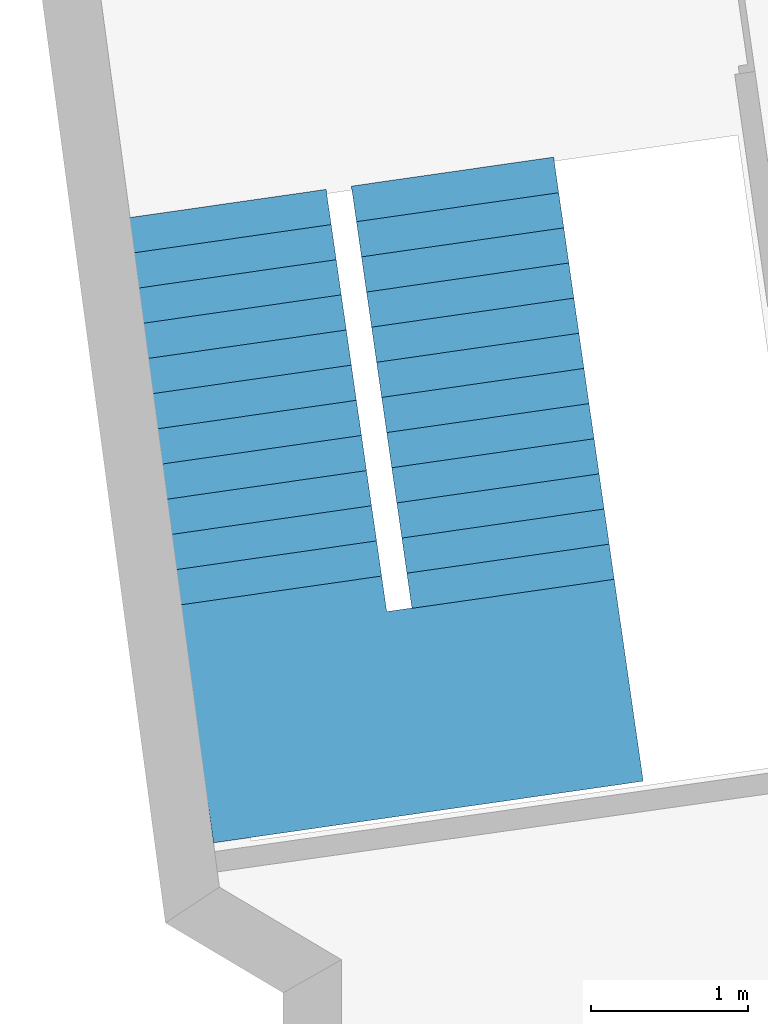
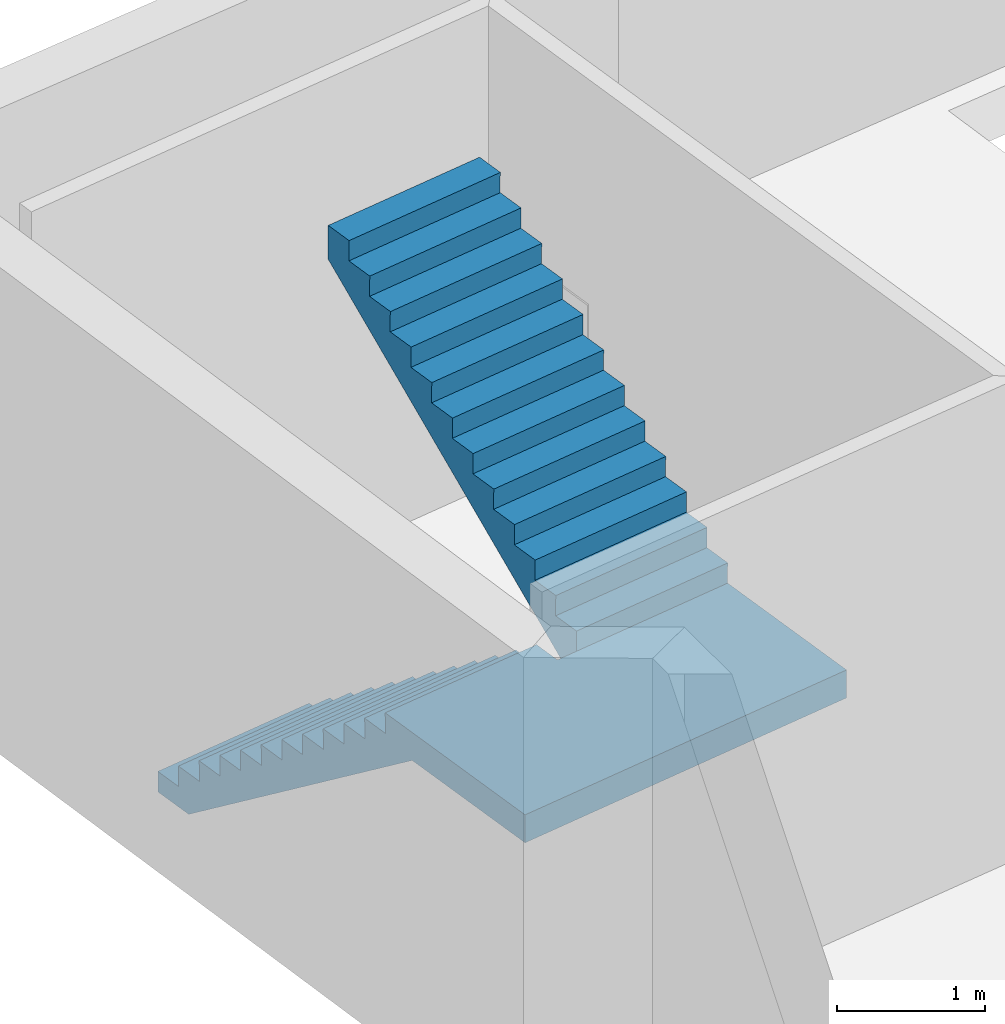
# One storey, part 24 of 27: 1 stair.
"""IFC2X3 building model written with IfcOpenShell, lengths in metres."""

import ifcopenshell
import ifcopenshell.guid

model = None  # the IFC model being written
_history = None  # IfcOwnerHistory: only IFC2X3 demands one
_inside = {}  # id of a spatial element -> (the spatial element, [elements in it])
_under = {}  # id of a project, library or spatial element -> (it, [spatial elements below it])
_declared = {}  # id of a project -> (the project, [libraries it declares])
_typed = {}  # id of a type object -> (the type object, [elements of that type])
_made_of = {}  # id of a material, layer set ... -> (it, [elements and type objects made of it])


def new_model(schema):
    """Start an empty IFC model of exactly this schema.

    Asked for "IFC4X3", IfcOpenShell would pick the latest addendum, in which some entities
    have other attributes; the version numbers below select the first issue.
    IFC2X3 requires an IfcOwnerHistory on every rooted entity: one is made here for all.
    """
    global model, _history
    if schema == "IFC4X3":
        model = ifcopenshell.file(schema_version=(4, 3, 0, 0))
    else:
        model = ifcopenshell.file(schema=schema)
    _inside.clear()
    _under.clear()
    _declared.clear()
    _typed.clear()
    _made_of.clear()
    _history = None
    if model.schema == "IFC2X3":
        org = make("IfcOrganization", Name="unknown")
        user = make(
            "IfcPersonAndOrganization",
            ThePerson=make("IfcPerson", FamilyName="unknown"),
            TheOrganization=org,
        )
        app = make(
            "IfcApplication",
            ApplicationDeveloper=org,
            Version="unknown",
            ApplicationFullName="unknown",
            ApplicationIdentifier="unknown",
        )
        _history = make(
            "IfcOwnerHistory",
            OwningUser=user,
            OwningApplication=app,
            ChangeAction="ADDED",
            CreationDate=0,
        )
    return model


def make(cls, **values):
    """One entity of the class cls with the attributes given. An attribute that is None is left unset."""
    return model.create_entity(
        cls, **{name: value for name, value in values.items() if value is not None}
    )


def entity(cls, *values):
    """Any entity or typed value of the class cls, its attributes in the order of the schema. None: left unset."""
    e = model.create_entity(cls)
    for i, value in enumerate(values):
        if value is not None:
            e[i] = value
    return e


def rooted(cls, **values):
    """An entity with a GlobalId (a new one), such as an element, a storey or a relation."""
    return make(cls, GlobalId=ifcopenshell.guid.new(), OwnerHistory=_history, **values)


def si_unit(unit_type, name, prefix=None):
    """IfcSIUnit, for example si_unit("LENGTHUNIT", "METRE", prefix="MILLI")."""
    return make("IfcSIUnit", UnitType=unit_type, Prefix=prefix, Name=name)


def converted_unit(unit_type, name, factor, base, dimensions=None, offset=None):
    """IfcConversionBasedUnit, such as the inch: factor (a typed value) times the base unit."""
    return make(
        "IfcConversionBasedUnit"
        if offset is None
        else "IfcConversionBasedUnitWithOffset",
        ConversionOffset=offset,
        Dimensions=None
        if dimensions is None
        else entity("IfcDimensionalExponents", *dimensions),
        UnitType=unit_type,
        Name=name,
        ConversionFactor=make(
            "IfcMeasureWithUnit", ValueComponent=factor, UnitComponent=base
        ),
    )


def money_unit(currency):
    """IfcMonetaryUnit."""
    return make("IfcMonetaryUnit", Currency=currency)


def assignment(units):
    """IfcUnitAssignment: the units of a project."""
    return None if units is None else make("IfcUnitAssignment", Units=units)


def point(xyz):
    """IfcCartesianPoint."""
    return None if xyz is None else make("IfcCartesianPoint", Coordinates=xyz)


def direction(xyz):
    """IfcDirection."""
    return None if xyz is None else make("IfcDirection", DirectionRatios=xyz)


def frame(location, z_axis=None, x_axis=None):
    """IfcAxis2Placement3D, a coordinate frame: its origin and axes. An axis left out is left unset."""
    return make(
        "IfcAxis2Placement3D",
        Location=point(location),
        Axis=direction(z_axis),
        RefDirection=direction(x_axis),
    )


def origin_with_axes():
    """The frame at (0, 0, 0) with the z axis (0, 0, 1) and the x axis (1, 0, 0) written out."""
    return frame((0.0, 0.0, 0.0), z_axis=(0.0, 0.0, 1.0), x_axis=(1.0, 0.0, 0.0))


def place(relative_to, where):
    """IfcLocalPlacement: puts the frame where relative to a parent placement (None: the world)."""
    return make(
        "IfcLocalPlacement", PlacementRelTo=relative_to, RelativePlacement=where
    )


def context(
    kind, dimensions, precision=None, world=None, true_north=None, identifier=None
):
    """IfcGeometricRepresentationContext, for example the 3D "Model" context."""
    return make(
        "IfcGeometricRepresentationContext",
        ContextIdentifier=identifier,
        ContextType=kind,
        CoordinateSpaceDimension=dimensions,
        Precision=precision,
        WorldCoordinateSystem=world,
        TrueNorth=true_north,
    )


def subcontext(parent, identifier, kind, view, scale=None):
    """IfcGeometricRepresentationSubContext, for example "Body" below "Model"."""
    return make(
        "IfcGeometricRepresentationSubContext",
        ContextIdentifier=identifier,
        ContextType=kind,
        ParentContext=parent,
        TargetScale=scale,
        TargetView=view,
    )


def project(units=None, contexts=None):
    """IfcProject with its units and contexts."""
    return rooted(
        "IfcProject",
        Name="project",
        RepresentationContexts=contexts,
        UnitsInContext=assignment(units),
    )


def spatial(cls, under=None, at=None, **own):
    """A site, building, storey or space (cls), placed at a placement, below another one or the project."""
    s = rooted(cls, ObjectPlacement=at, **own)
    if under is not None:
        _under.setdefault(under.id(), (under, []))[1].append(s)
    return s


def faces_of(points, faces, orient=None, outer=None):
    """IfcFace entities. A face is a list of loops; a loop is a list of indices into points, from 0.

    orient and outer hold one flag for each loop. By default every Orientation is true, the
    first loop of a face is its IfcFaceOuterBound and the others are IfcFaceBound.
    """
    made = []
    for i, loops in enumerate(faces):
        bounds = []
        for j, loop in enumerate(loops):
            is_outer = j == 0 if outer is None else outer[i][j]
            bounds.append(
                make(
                    "IfcFaceOuterBound" if is_outer else "IfcFaceBound",
                    Bound=make("IfcPolyLoop", Polygon=[points[k] for k in loop]),
                    Orientation=True if orient is None else orient[i][j],
                )
            )
        made.append(make("IfcFace", Bounds=bounds))
    return made


def faceted_brep(points, faces, orient=None, outer=None, voids=None):
    """IfcFacetedBrep: a solid bounded by flat faces; with voids (closed shells), ...WithVoids."""
    shared = [point(p) for p in points]
    hull = make("IfcClosedShell", CfsFaces=faces_of(shared, faces, orient, outer))
    if voids is None:
        return make("IfcFacetedBrep", Outer=hull)
    return make(
        "IfcFacetedBrepWithVoids",
        Outer=hull,
        Voids=[
            make(cls, CfsFaces=faces_of(shared, fs, o, b)) for cls, fs, o, b in voids
        ],
    )


def shape(context_of_items, identifier, shape_type, items):
    """IfcShapeRepresentation: the items that make up one representation, for example the "Body"."""
    return make(
        "IfcShapeRepresentation",
        ContextOfItems=context_of_items,
        RepresentationIdentifier=identifier,
        RepresentationType=shape_type,
        Items=items,
    )


def material(Name=None, Category=None):
    """IfcMaterial."""
    return make("IfcMaterial", Name=Name, Category=Category)


def made_of(thing, what):
    """Note that an element or type object is made of a material, layer set ...; save() writes the relation."""
    if what is not None:
        _made_of.setdefault(what.id(), (what, []))[1].append(thing)
    return thing


def element(
    cls,
    number,
    at=None,
    inside=None,
    cuts=None,
    type_object=None,
    material=None,
    context=None,
    identifier="Body",
    shape_type=None,
    held_by="IfcProductDefinitionShape",
    body=None,
    shapes=None,
    **own,
):
    """One element of the class cls, such as IfcWall. Its Tag is "e" and its number.

    at: its placement. inside: the storey or other place that contains it. cuts: it is an
    opening in that element (IfcRelVoidsElement). A single representation is given by context,
    identifier, shape_type and body (its items); several are given by shapes. held_by: the class
    of the entity that holds the representations. save() writes the other relations.
    """
    e = rooted(cls, Tag="e%d" % number, ObjectPlacement=at, **own)
    if body is not None:
        shapes = [shape(context, identifier, shape_type, body)]
    if shapes is not None:
        e.Representation = make(held_by, Representations=shapes)
    if inside is not None:
        _inside.setdefault(inside.id(), (inside, []))[1].append(e)
    if cuts is not None:
        rooted(
            "IfcRelVoidsElement", RelatingBuildingElement=cuts, RelatedOpeningElement=e
        )
    if type_object is not None:
        _typed.setdefault(type_object.id(), (type_object, []))[1].append(e)
    return made_of(e, material)


def aggregate(whole, parts):
    """IfcRelAggregates: a whole, such as a stair, and the parts it consists of."""
    return rooted("IfcRelAggregates", RelatingObject=whole, RelatedObjects=parts)


def save(model, path):
    """Write the relations noted so far, then the file.

    IfcRelAggregates (storeys below a building ...), IfcRelContainedInSpatialStructure (elements
    in a storey), IfcRelDefinesByType, IfcRelAssociatesMaterial and IfcRelDeclares: one each for
    every whole, place, type object, material and project.
    """
    for whole, parts in _under.values():
        aggregate(whole, parts)
    for where, things in _inside.values():
        rooted(
            "IfcRelContainedInSpatialStructure",
            RelatedElements=things,
            RelatingStructure=where,
        )
    for kind, things in _typed.values():
        rooted("IfcRelDefinesByType", RelatedObjects=things, RelatingType=kind)
    for what, things in _made_of.values():
        rooted("IfcRelAssociatesMaterial", RelatedObjects=things, RelatingMaterial=what)
    for by, libraries in _declared.values():
        rooted("IfcRelDeclares", RelatingContext=by, RelatedDefinitions=libraries)
    model.write(path)


model = new_model("IFC2X3")

# Units and contexts
model_context = context("Model", 3, precision=1e-05, world=origin_with_axes(), true_north=direction((0.0, 1.0)))
body_context = subcontext(model_context, "Body", "Model", "MODEL_VIEW")
ifc_project = project(units=[si_unit("LENGTHUNIT", "METRE"), si_unit("AREAUNIT", "SQUARE_METRE"), si_unit("VOLUMEUNIT", "CUBIC_METRE"), converted_unit("PLANEANGLEUNIT", "DEGREE", entity("IfcPlaneAngleMeasure", 0.0174532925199), si_unit("PLANEANGLEUNIT", "RADIAN"), dimensions=[0, 0, 0, 0, 0, 0, 0]), si_unit("SOLIDANGLEUNIT", "STERADIAN"), money_unit("EUR"), converted_unit("TIMEUNIT", "Year", entity("IfcTimeMeasure", 31556926.0), si_unit("TIMEUNIT", "SECOND"), dimensions=[0, 0, 0, 0, 0, 0, 0]), si_unit("MASSUNIT", "GRAM"), si_unit("THERMODYNAMICTEMPERATUREUNIT", "DEGREE_CELSIUS"), si_unit("LUMINOUSINTENSITYUNIT", "LUMEN")], contexts=[model_context])

# Site, building, storey
site_placement = place(None, origin_with_axes())
site = spatial("IfcSite", under=ifc_project, at=site_placement, Name="Undefined", CompositionType="ELEMENT")
building_placement = place(site_placement, origin_with_axes())
building = spatial("IfcBuilding", under=site, at=building_placement, Name="Undefined", CompositionType="ELEMENT")
storey_placement = place(building_placement, frame((0.0, 0.0, 5.4), z_axis=(0.0, 0.0, 1.0), x_axis=(1.0, 0.0, 0.0)))
storey = spatial("IfcBuildingStorey", under=building, at=storey_placement, Name="R+1", CompositionType="ELEMENT", Elevation=5.4)

# Stair
ifc_material = material(Name="Concrete Block")
stair_placement = place(storey_placement, frame((-1.38089637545, 23.3565313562, 0.0), z_axis=(0.0, 0.0, 1.0), x_axis=(0.142095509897, -0.989852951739, 0.0)))
element("IfcStair", 1, at=stair_placement, inside=storey, material=ifc_material, Name="Stair_01", ObjectType="STAIR", ShapeType="NOTDEFINED", context=body_context, shape_type="Brep", body=[
    faceted_brep([(0.334833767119, 0.0, 0.0), (0.334833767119, 1.29732646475, 0.0), (2.77183291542, 1.29732646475, 1.785), (2.77183291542, 0.0, 1.785), (0.02, 0.0, 0.0), (0.02, 1.29732646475, 0.0), (0.02, 1.29732646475, 0.137916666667), (0.245461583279, 1.29732646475, 0.137916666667), (0.245461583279, 1.29732646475, 0.305833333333), (0.470923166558, 1.29732646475, 0.305833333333), (0.470923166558, 1.29732646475, 0.47375), (0.696384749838, 1.29732646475, 0.47375), (0.696384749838, 1.29732646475, 0.641666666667), (0.921846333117, 1.29732646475, 0.641666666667), (0.921846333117, 1.29732646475, 0.809583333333), (1.1473079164, 1.29732646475, 0.809583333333), (1.1473079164, 1.29732646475, 0.9775), (1.37276949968, 1.29732646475, 0.9775), (1.37276949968, 1.29732646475, 1.14541666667), (1.59823108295, 1.29732646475, 1.14541666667), (1.59823108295, 1.29732646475, 1.31333333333), (1.82369266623, 1.29732646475, 1.31333333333), (1.82369266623, 1.29732646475, 1.48125), (2.04915424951, 1.29732646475, 1.48125), (2.04915424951, 1.29732646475, 1.64916666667), (2.27461583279, 1.29732646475, 1.64916666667), (2.27461583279, 1.29732646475, 1.81708333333), (2.50007741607, 1.29732646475, 1.81708333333), (2.50007741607, 1.29732646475, 1.985), (2.72553899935, 1.29732646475, 1.985), (4.0028654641, 1.29732646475, 1.985), (4.0028654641, 1.29732646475, 1.785), (4.0028654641, 0.0, 1.785), (4.0028654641, 0.0, 1.985), (2.72553899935, 0.0, 1.985), (2.50007741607, 0.0, 1.985), (2.50007741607, 0.0, 1.81708333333), (2.27461583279, 0.0, 1.81708333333), (2.27461583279, 0.0, 1.64916666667), (2.04915424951, 0.0, 1.64916666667), (2.04915424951, 0.0, 1.48125), (1.82369266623, 0.0, 1.48125), (1.82369266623, 0.0, 1.31333333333), (1.59823108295, 0.0, 1.31333333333), (1.59823108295, 0.0, 1.14541666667), (1.37276949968, 0.0, 1.14541666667), (1.37276949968, 0.0, 0.9775), (1.1473079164, 0.0, 0.9775), (1.1473079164, 0.0, 0.809583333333), (0.921846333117, 0.0, 0.809583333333), (0.921846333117, 0.0, 0.641666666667), (0.696384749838, 0.0, 0.641666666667), (0.696384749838, 0.0, 0.47375), (0.470923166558, 0.0, 0.47375), (0.470923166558, 0.0, 0.305833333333), (0.245461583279, 0.0, 0.305833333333), (0.245461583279, 0.0, 0.137916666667), (0.02, 0.0, 0.137916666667)], [[[0, 1, 2, 3]], [[4, 5, 1, 0]], [[1, 5, 6, 7, 8, 9, 10, 11, 12, 13, 14, 15, 16, 17, 18, 19, 20, 21, 22, 23, 24, 25, 26, 27, 28, 29, 30, 31, 2]], [[3, 2, 31, 32]], [[0, 3, 32, 33, 34, 35, 36, 37, 38, 39, 40, 41, 42, 43, 44, 45, 46, 47, 48, 49, 50, 51, 52, 53, 54, 55, 56, 57, 4]], [[57, 6, 5, 4]], [[56, 7, 6, 57]], [[55, 8, 7, 56]], [[54, 9, 8, 55]], [[53, 10, 9, 54]], [[52, 11, 10, 53]], [[51, 12, 11, 52]], [[50, 13, 12, 51]], [[49, 14, 13, 50]], [[48, 15, 14, 49]], [[47, 16, 15, 48]], [[46, 17, 16, 47]], [[45, 18, 17, 46]], [[44, 19, 18, 45]], [[43, 20, 19, 44]], [[42, 21, 20, 43]], [[41, 22, 21, 42]], [[40, 23, 22, 41]], [[39, 24, 23, 40]], [[38, 25, 24, 39]], [[37, 26, 25, 38]], [[36, 27, 26, 37]], [[35, 28, 27, 36]], [[34, 29, 28, 35]], [[33, 30, 29, 34]], [[32, 31, 30, 33]]]),
    faceted_brep([(2.70553899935, 1.29732646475, 1.985), (2.70553899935, 1.45900763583, 1.985), (2.70553899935, 1.45900763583, 1.785), (2.70553899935, 1.29732646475, 1.785), (4.0028654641, 1.29732646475, 1.985), (4.0028654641, 1.45900763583, 1.985), (4.0028654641, 1.45900763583, 1.785), (2.77183291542, 1.45900763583, 1.785), (2.77183291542, 1.29732646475, 1.785), (4.0028654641, 1.29732646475, 1.785)], [[[0, 1, 2, 3]], [[4, 5, 1, 0]], [[1, 5, 6, 7, 2]], [[3, 2, 7, 8]], [[0, 3, 8, 9, 4]], [[9, 6, 5, 4]], [[8, 7, 6, 9]]]),
    faceted_brep([(2.70553899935, 1.45900763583, 1.985), (2.70553899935, 2.75633410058, 1.985), (2.70553899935, 2.75633410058, 1.785), (2.70553899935, 1.45900763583, 1.785), (4.0028654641, 1.45900763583, 1.985), (4.0028654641, 2.75633410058, 1.985), (4.0028654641, 2.75633410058, 1.785), (4.0028654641, 1.45900763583, 1.785)], [[[0, 1, 2, 3]], [[4, 5, 1, 0]], [[1, 5, 6, 2]], [[3, 2, 6, 7]], [[0, 3, 7, 4]], [[7, 6, 5, 4]]]),
    faceted_brep([(2.70553899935, 1.45900763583, 1.785), (2.63924508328, 1.45900763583, 1.785), (2.63924508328, 2.75633410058, 1.785), (2.70553899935, 2.75633410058, 1.785), (2.70553899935, 1.45900763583, 1.985), (2.68553899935, 1.45900763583, 1.985), (2.68553899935, 1.45900763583, 2.15291666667), (2.46007741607, 1.45900763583, 2.15291666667), (2.46007741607, 1.45900763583, 2.32083333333), (2.23461583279, 1.45900763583, 2.32083333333), (2.23461583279, 1.45900763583, 2.48875), (2.00915424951, 1.45900763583, 2.48875), (2.00915424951, 1.45900763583, 2.65666666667), (1.78369266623, 1.45900763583, 2.65666666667), (1.78369266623, 1.45900763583, 2.82458333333), (1.55823108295, 1.45900763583, 2.82458333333), (1.55823108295, 1.45900763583, 2.9925), (1.33276949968, 1.45900763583, 2.9925), (1.33276949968, 1.45900763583, 3.16041666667), (1.1073079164, 1.45900763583, 3.16041666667), (1.1073079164, 1.45900763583, 3.32833333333), (0.881846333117, 1.45900763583, 3.32833333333), (0.881846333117, 1.45900763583, 3.49625), (0.656384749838, 1.45900763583, 3.49625), (0.656384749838, 1.45900763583, 3.66416666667), (0.430923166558, 1.45900763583, 3.66416666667), (0.430923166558, 1.45900763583, 3.83208333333), (0.205461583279, 1.45900763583, 3.83208333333), (0.205461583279, 1.45900763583, 4.0), (0.0, 1.45900763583, 4.0), (0.0, 1.45900763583, 3.75062638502), (0.0, 2.75633410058, 3.75062638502), (0.0, 2.75633410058, 4.0), (0.205461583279, 2.75633410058, 4.0), (0.205461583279, 2.75633410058, 3.83208333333), (0.430923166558, 2.75633410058, 3.83208333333), (0.430923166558, 2.75633410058, 3.66416666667), (0.656384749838, 2.75633410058, 3.66416666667), (0.656384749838, 2.75633410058, 3.49625), (0.881846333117, 2.75633410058, 3.49625), (0.881846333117, 2.75633410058, 3.32833333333), (1.1073079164, 2.75633410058, 3.32833333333), (1.1073079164, 2.75633410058, 3.16041666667), (1.33276949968, 2.75633410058, 3.16041666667), (1.33276949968, 2.75633410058, 2.9925), (1.55823108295, 2.75633410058, 2.9925), (1.55823108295, 2.75633410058, 2.82458333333), (1.78369266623, 2.75633410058, 2.82458333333), (1.78369266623, 2.75633410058, 2.65666666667), (2.00915424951, 2.75633410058, 2.65666666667), (2.00915424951, 2.75633410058, 2.48875), (2.23461583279, 2.75633410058, 2.48875), (2.23461583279, 2.75633410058, 2.32083333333), (2.46007741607, 2.75633410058, 2.32083333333), (2.46007741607, 2.75633410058, 2.15291666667), (2.68553899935, 2.75633410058, 2.15291666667), (2.68553899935, 2.75633410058, 1.985), (2.70553899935, 2.75633410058, 1.985)], [[[0, 1, 2, 3]], [[0, 4, 5, 6, 7, 8, 9, 10, 11, 12, 13, 14, 15, 16, 17, 18, 19, 20, 21, 22, 23, 24, 25, 26, 27, 28, 29, 30, 1]], [[1, 30, 31, 2]], [[3, 2, 31, 32, 33, 34, 35, 36, 37, 38, 39, 40, 41, 42, 43, 44, 45, 46, 47, 48, 49, 50, 51, 52, 53, 54, 55, 56, 57]], [[4, 0, 3, 57]], [[5, 4, 57, 56]], [[6, 5, 56, 55]], [[7, 6, 55, 54]], [[8, 7, 54, 53]], [[9, 8, 53, 52]], [[10, 9, 52, 51]], [[11, 10, 51, 50]], [[12, 11, 50, 49]], [[13, 12, 49, 48]], [[14, 13, 48, 47]], [[15, 14, 47, 46]], [[16, 15, 46, 45]], [[17, 16, 45, 44]], [[18, 17, 44, 43]], [[19, 18, 43, 42]], [[20, 19, 42, 41]], [[21, 20, 41, 40]], [[22, 21, 40, 39]], [[23, 22, 39, 38]], [[24, 23, 38, 37]], [[25, 24, 37, 36]], [[26, 25, 36, 35]], [[27, 26, 35, 34]], [[28, 27, 34, 33]], [[29, 28, 33, 32]], [[30, 29, 32, 31]]]),
    faceted_brep([(0.0, 0.0, 0.0), (0.0, 1.29732646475, 0.0), (0.02, 1.29732646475, 0.0), (0.02, 0.0, 0.0), (0.0, 0.0, 0.137916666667), (0.0, 1.29732646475, 0.137916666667), (0.02, 1.29732646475, 0.137916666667), (0.02, 0.0, 0.137916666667)], [[[0, 1, 2, 3]], [[4, 5, 1, 0]], [[1, 5, 6, 2]], [[3, 2, 6, 7]], [[0, 3, 7, 4]], [[7, 6, 5, 4]]]),
    faceted_brep([(0.225461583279, 0.0, 0.167916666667), (0.225461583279, 1.29732646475, 0.167916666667), (0.245461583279, 1.29732646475, 0.167916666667), (0.245461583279, 0.0, 0.167916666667), (0.225461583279, 0.0, 0.305833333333), (0.225461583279, 1.29732646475, 0.305833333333), (0.245461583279, 1.29732646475, 0.305833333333), (0.245461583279, 0.0, 0.305833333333)], [[[0, 1, 2, 3]], [[4, 5, 1, 0]], [[1, 5, 6, 2]], [[3, 2, 6, 7]], [[0, 3, 7, 4]], [[7, 6, 5, 4]]]),
    faceted_brep([(0.450923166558, 0.0, 0.335833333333), (0.450923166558, 1.29732646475, 0.335833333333), (0.470923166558, 1.29732646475, 0.335833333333), (0.470923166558, 0.0, 0.335833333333), (0.450923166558, 0.0, 0.47375), (0.450923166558, 1.29732646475, 0.47375), (0.470923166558, 1.29732646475, 0.47375), (0.470923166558, 0.0, 0.47375)], [[[0, 1, 2, 3]], [[4, 5, 1, 0]], [[1, 5, 6, 2]], [[3, 2, 6, 7]], [[0, 3, 7, 4]], [[7, 6, 5, 4]]]),
    faceted_brep([(0.676384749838, 0.0, 0.50375), (0.676384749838, 1.29732646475, 0.50375), (0.696384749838, 1.29732646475, 0.50375), (0.696384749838, 0.0, 0.50375), (0.676384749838, 0.0, 0.641666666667), (0.676384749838, 1.29732646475, 0.641666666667), (0.696384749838, 1.29732646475, 0.641666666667), (0.696384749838, 0.0, 0.641666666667)], [[[0, 1, 2, 3]], [[4, 5, 1, 0]], [[1, 5, 6, 2]], [[3, 2, 6, 7]], [[0, 3, 7, 4]], [[7, 6, 5, 4]]]),
    faceted_brep([(0.901846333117, 0.0, 0.671666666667), (0.901846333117, 1.29732646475, 0.671666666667), (0.921846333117, 1.29732646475, 0.671666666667), (0.921846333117, 0.0, 0.671666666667), (0.901846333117, 0.0, 0.809583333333), (0.901846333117, 1.29732646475, 0.809583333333), (0.921846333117, 1.29732646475, 0.809583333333), (0.921846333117, 0.0, 0.809583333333)], [[[0, 1, 2, 3]], [[4, 5, 1, 0]], [[1, 5, 6, 2]], [[3, 2, 6, 7]], [[0, 3, 7, 4]], [[7, 6, 5, 4]]]),
    faceted_brep([(1.1273079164, 0.0, 0.839583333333), (1.1273079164, 1.29732646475, 0.839583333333), (1.1473079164, 1.29732646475, 0.839583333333), (1.1473079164, 0.0, 0.839583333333), (1.1273079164, 0.0, 0.9775), (1.1273079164, 1.29732646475, 0.9775), (1.1473079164, 1.29732646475, 0.9775), (1.1473079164, 0.0, 0.9775)], [[[0, 1, 2, 3]], [[4, 5, 1, 0]], [[1, 5, 6, 2]], [[3, 2, 6, 7]], [[0, 3, 7, 4]], [[7, 6, 5, 4]]]),
    faceted_brep([(1.35276949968, 0.0, 1.0075), (1.35276949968, 1.29732646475, 1.0075), (1.37276949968, 1.29732646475, 1.0075), (1.37276949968, 0.0, 1.0075), (1.35276949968, 0.0, 1.14541666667), (1.35276949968, 1.29732646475, 1.14541666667), (1.37276949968, 1.29732646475, 1.14541666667), (1.37276949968, 0.0, 1.14541666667)], [[[0, 1, 2, 3]], [[4, 5, 1, 0]], [[1, 5, 6, 2]], [[3, 2, 6, 7]], [[0, 3, 7, 4]], [[7, 6, 5, 4]]]),
    faceted_brep([(1.57823108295, 0.0, 1.17541666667), (1.57823108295, 1.29732646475, 1.17541666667), (1.59823108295, 1.29732646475, 1.17541666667), (1.59823108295, 0.0, 1.17541666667), (1.57823108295, 0.0, 1.31333333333), (1.57823108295, 1.29732646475, 1.31333333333), (1.59823108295, 1.29732646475, 1.31333333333), (1.59823108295, 0.0, 1.31333333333)], [[[0, 1, 2, 3]], [[4, 5, 1, 0]], [[1, 5, 6, 2]], [[3, 2, 6, 7]], [[0, 3, 7, 4]], [[7, 6, 5, 4]]]),
    faceted_brep([(1.80369266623, 0.0, 1.34333333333), (1.80369266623, 1.29732646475, 1.34333333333), (1.82369266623, 1.29732646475, 1.34333333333), (1.82369266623, 0.0, 1.34333333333), (1.80369266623, 0.0, 1.48125), (1.80369266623, 1.29732646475, 1.48125), (1.82369266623, 1.29732646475, 1.48125), (1.82369266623, 0.0, 1.48125)], [[[0, 1, 2, 3]], [[4, 5, 1, 0]], [[1, 5, 6, 2]], [[3, 2, 6, 7]], [[0, 3, 7, 4]], [[7, 6, 5, 4]]]),
    faceted_brep([(2.02915424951, 0.0, 1.51125), (2.02915424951, 1.29732646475, 1.51125), (2.04915424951, 1.29732646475, 1.51125), (2.04915424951, 0.0, 1.51125), (2.02915424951, 0.0, 1.64916666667), (2.02915424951, 1.29732646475, 1.64916666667), (2.04915424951, 1.29732646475, 1.64916666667), (2.04915424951, 0.0, 1.64916666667)], [[[0, 1, 2, 3]], [[4, 5, 1, 0]], [[1, 5, 6, 2]], [[3, 2, 6, 7]], [[0, 3, 7, 4]], [[7, 6, 5, 4]]]),
    faceted_brep([(2.25461583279, 0.0, 1.67916666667), (2.25461583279, 1.29732646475, 1.67916666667), (2.27461583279, 1.29732646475, 1.67916666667), (2.27461583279, 0.0, 1.67916666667), (2.25461583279, 0.0, 1.81708333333), (2.25461583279, 1.29732646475, 1.81708333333), (2.27461583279, 1.29732646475, 1.81708333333), (2.27461583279, 0.0, 1.81708333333)], [[[0, 1, 2, 3]], [[4, 5, 1, 0]], [[1, 5, 6, 2]], [[3, 2, 6, 7]], [[0, 3, 7, 4]], [[7, 6, 5, 4]]]),
    faceted_brep([(2.48007741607, 0.0, 1.84708333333), (2.48007741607, 1.29732646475, 1.84708333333), (2.50007741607, 1.29732646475, 1.84708333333), (2.50007741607, 0.0, 1.84708333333), (2.48007741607, 0.0, 1.985), (2.48007741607, 1.29732646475, 1.985), (2.50007741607, 1.29732646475, 1.985), (2.50007741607, 0.0, 1.985)], [[[0, 1, 2, 3]], [[4, 5, 1, 0]], [[1, 5, 6, 2]], [[3, 2, 6, 7]], [[0, 3, 7, 4]], [[7, 6, 5, 4]]]),
    faceted_brep([(2.70553899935, 1.45900763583, 2.015), (2.68553899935, 1.45900763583, 2.015), (2.68553899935, 2.75633410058, 2.015), (2.70553899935, 2.75633410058, 2.015), (2.70553899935, 1.45900763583, 2.15291666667), (2.68553899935, 1.45900763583, 2.15291666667), (2.68553899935, 2.75633410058, 2.15291666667), (2.70553899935, 2.75633410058, 2.15291666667)], [[[0, 1, 2, 3]], [[0, 4, 5, 1]], [[1, 5, 6, 2]], [[3, 2, 6, 7]], [[4, 0, 3, 7]], [[5, 4, 7, 6]]]),
    faceted_brep([(2.48007741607, 1.45900763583, 2.18291666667), (2.46007741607, 1.45900763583, 2.18291666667), (2.46007741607, 2.75633410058, 2.18291666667), (2.48007741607, 2.75633410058, 2.18291666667), (2.48007741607, 1.45900763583, 2.32083333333), (2.46007741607, 1.45900763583, 2.32083333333), (2.46007741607, 2.75633410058, 2.32083333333), (2.48007741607, 2.75633410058, 2.32083333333)], [[[0, 1, 2, 3]], [[0, 4, 5, 1]], [[1, 5, 6, 2]], [[3, 2, 6, 7]], [[4, 0, 3, 7]], [[5, 4, 7, 6]]]),
    faceted_brep([(2.25461583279, 1.45900763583, 2.35083333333), (2.23461583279, 1.45900763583, 2.35083333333), (2.23461583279, 2.75633410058, 2.35083333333), (2.25461583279, 2.75633410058, 2.35083333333), (2.25461583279, 1.45900763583, 2.48875), (2.23461583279, 1.45900763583, 2.48875), (2.23461583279, 2.75633410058, 2.48875), (2.25461583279, 2.75633410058, 2.48875)], [[[0, 1, 2, 3]], [[0, 4, 5, 1]], [[1, 5, 6, 2]], [[3, 2, 6, 7]], [[4, 0, 3, 7]], [[5, 4, 7, 6]]]),
    faceted_brep([(2.02915424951, 1.45900763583, 2.51875), (2.00915424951, 1.45900763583, 2.51875), (2.00915424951, 2.75633410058, 2.51875), (2.02915424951, 2.75633410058, 2.51875), (2.02915424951, 1.45900763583, 2.65666666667), (2.00915424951, 1.45900763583, 2.65666666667), (2.00915424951, 2.75633410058, 2.65666666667), (2.02915424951, 2.75633410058, 2.65666666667)], [[[0, 1, 2, 3]], [[0, 4, 5, 1]], [[1, 5, 6, 2]], [[3, 2, 6, 7]], [[4, 0, 3, 7]], [[5, 4, 7, 6]]]),
    faceted_brep([(1.80369266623, 1.45900763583, 2.68666666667), (1.78369266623, 1.45900763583, 2.68666666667), (1.78369266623, 2.75633410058, 2.68666666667), (1.80369266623, 2.75633410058, 2.68666666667), (1.80369266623, 1.45900763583, 2.82458333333), (1.78369266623, 1.45900763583, 2.82458333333), (1.78369266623, 2.75633410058, 2.82458333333), (1.80369266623, 2.75633410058, 2.82458333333)], [[[0, 1, 2, 3]], [[0, 4, 5, 1]], [[1, 5, 6, 2]], [[3, 2, 6, 7]], [[4, 0, 3, 7]], [[5, 4, 7, 6]]]),
    faceted_brep([(1.57823108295, 1.45900763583, 2.85458333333), (1.55823108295, 1.45900763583, 2.85458333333), (1.55823108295, 2.75633410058, 2.85458333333), (1.57823108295, 2.75633410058, 2.85458333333), (1.57823108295, 1.45900763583, 2.9925), (1.55823108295, 1.45900763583, 2.9925), (1.55823108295, 2.75633410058, 2.9925), (1.57823108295, 2.75633410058, 2.9925)], [[[0, 1, 2, 3]], [[0, 4, 5, 1]], [[1, 5, 6, 2]], [[3, 2, 6, 7]], [[4, 0, 3, 7]], [[5, 4, 7, 6]]]),
    faceted_brep([(1.35276949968, 1.45900763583, 3.0225), (1.33276949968, 1.45900763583, 3.0225), (1.33276949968, 2.75633410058, 3.0225), (1.35276949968, 2.75633410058, 3.0225), (1.35276949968, 1.45900763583, 3.16041666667), (1.33276949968, 1.45900763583, 3.16041666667), (1.33276949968, 2.75633410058, 3.16041666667), (1.35276949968, 2.75633410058, 3.16041666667)], [[[0, 1, 2, 3]], [[0, 4, 5, 1]], [[1, 5, 6, 2]], [[3, 2, 6, 7]], [[4, 0, 3, 7]], [[5, 4, 7, 6]]]),
    faceted_brep([(1.1273079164, 1.45900763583, 3.19041666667), (1.1073079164, 1.45900763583, 3.19041666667), (1.1073079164, 2.75633410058, 3.19041666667), (1.1273079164, 2.75633410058, 3.19041666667), (1.1273079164, 1.45900763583, 3.32833333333), (1.1073079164, 1.45900763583, 3.32833333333), (1.1073079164, 2.75633410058, 3.32833333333), (1.1273079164, 2.75633410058, 3.32833333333)], [[[0, 1, 2, 3]], [[0, 4, 5, 1]], [[1, 5, 6, 2]], [[3, 2, 6, 7]], [[4, 0, 3, 7]], [[5, 4, 7, 6]]]),
    faceted_brep([(0.901846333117, 1.45900763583, 3.35833333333), (0.881846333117, 1.45900763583, 3.35833333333), (0.881846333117, 2.75633410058, 3.35833333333), (0.901846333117, 2.75633410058, 3.35833333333), (0.901846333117, 1.45900763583, 3.49625), (0.881846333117, 1.45900763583, 3.49625), (0.881846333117, 2.75633410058, 3.49625), (0.901846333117, 2.75633410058, 3.49625)], [[[0, 1, 2, 3]], [[0, 4, 5, 1]], [[1, 5, 6, 2]], [[3, 2, 6, 7]], [[4, 0, 3, 7]], [[5, 4, 7, 6]]]),
    faceted_brep([(0.676384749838, 1.45900763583, 3.52625), (0.656384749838, 1.45900763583, 3.52625), (0.656384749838, 2.75633410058, 3.52625), (0.676384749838, 2.75633410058, 3.52625), (0.676384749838, 1.45900763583, 3.66416666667), (0.656384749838, 1.45900763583, 3.66416666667), (0.656384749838, 2.75633410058, 3.66416666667), (0.676384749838, 2.75633410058, 3.66416666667)], [[[0, 1, 2, 3]], [[0, 4, 5, 1]], [[1, 5, 6, 2]], [[3, 2, 6, 7]], [[4, 0, 3, 7]], [[5, 4, 7, 6]]]),
    faceted_brep([(0.450923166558, 1.45900763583, 3.69416666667), (0.430923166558, 1.45900763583, 3.69416666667), (0.430923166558, 2.75633410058, 3.69416666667), (0.450923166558, 2.75633410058, 3.69416666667), (0.450923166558, 1.45900763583, 3.83208333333), (0.430923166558, 1.45900763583, 3.83208333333), (0.430923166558, 2.75633410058, 3.83208333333), (0.450923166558, 2.75633410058, 3.83208333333)], [[[0, 1, 2, 3]], [[0, 4, 5, 1]], [[1, 5, 6, 2]], [[3, 2, 6, 7]], [[4, 0, 3, 7]], [[5, 4, 7, 6]]]),
    faceted_brep([(0.225461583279, 1.45900763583, 3.86208333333), (0.205461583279, 1.45900763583, 3.86208333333), (0.205461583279, 2.75633410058, 3.86208333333), (0.225461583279, 2.75633410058, 3.86208333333), (0.225461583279, 1.45900763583, 4.0), (0.205461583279, 1.45900763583, 4.0), (0.205461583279, 2.75633410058, 4.0), (0.225461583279, 2.75633410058, 4.0)], [[[0, 1, 2, 3]], [[0, 4, 5, 1]], [[1, 5, 6, 2]], [[3, 2, 6, 7]], [[4, 0, 3, 7]], [[5, 4, 7, 6]]]),
    faceted_brep([(-0.0025, 0.0, 0.137916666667), (-0.0025, 1.29732646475, 0.137916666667), (0.245461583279, 1.29732646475, 0.137916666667), (0.245461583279, 0.0, 0.137916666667), (-0.0025, 0.0, 0.167916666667), (-0.0025, 1.29732646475, 0.167916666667), (0.245461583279, 1.29732646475, 0.167916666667), (0.245461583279, 0.0, 0.167916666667)], [[[0, 1, 2, 3]], [[4, 5, 1, 0]], [[1, 5, 6, 2]], [[3, 2, 6, 7]], [[0, 3, 7, 4]], [[7, 6, 5, 4]]]),
    faceted_brep([(0.222961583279, 0.0, 0.305833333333), (0.222961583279, 1.29732646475, 0.305833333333), (0.470923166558, 1.29732646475, 0.305833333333), (0.470923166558, 0.0, 0.305833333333), (0.222961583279, 0.0, 0.335833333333), (0.222961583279, 1.29732646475, 0.335833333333), (0.470923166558, 1.29732646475, 0.335833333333), (0.470923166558, 0.0, 0.335833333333)], [[[0, 1, 2, 3]], [[4, 5, 1, 0]], [[1, 5, 6, 2]], [[3, 2, 6, 7]], [[0, 3, 7, 4]], [[7, 6, 5, 4]]]),
    faceted_brep([(0.448423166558, 0.0, 0.47375), (0.448423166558, 1.29732646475, 0.47375), (0.696384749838, 1.29732646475, 0.47375), (0.696384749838, 0.0, 0.47375), (0.448423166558, 0.0, 0.50375), (0.448423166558, 1.29732646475, 0.50375), (0.696384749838, 1.29732646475, 0.50375), (0.696384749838, 0.0, 0.50375)], [[[0, 1, 2, 3]], [[4, 5, 1, 0]], [[1, 5, 6, 2]], [[3, 2, 6, 7]], [[0, 3, 7, 4]], [[7, 6, 5, 4]]]),
    faceted_brep([(0.673884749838, 0.0, 0.641666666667), (0.673884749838, 1.29732646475, 0.641666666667), (0.921846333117, 1.29732646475, 0.641666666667), (0.921846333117, 0.0, 0.641666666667), (0.673884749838, 0.0, 0.671666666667), (0.673884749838, 1.29732646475, 0.671666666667), (0.921846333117, 1.29732646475, 0.671666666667), (0.921846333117, 0.0, 0.671666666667)], [[[0, 1, 2, 3]], [[4, 5, 1, 0]], [[1, 5, 6, 2]], [[3, 2, 6, 7]], [[0, 3, 7, 4]], [[7, 6, 5, 4]]]),
    faceted_brep([(0.899346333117, 0.0, 0.809583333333), (0.899346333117, 1.29732646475, 0.809583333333), (1.1473079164, 1.29732646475, 0.809583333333), (1.1473079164, 0.0, 0.809583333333), (0.899346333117, 0.0, 0.839583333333), (0.899346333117, 1.29732646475, 0.839583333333), (1.1473079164, 1.29732646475, 0.839583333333), (1.1473079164, 0.0, 0.839583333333)], [[[0, 1, 2, 3]], [[4, 5, 1, 0]], [[1, 5, 6, 2]], [[3, 2, 6, 7]], [[0, 3, 7, 4]], [[7, 6, 5, 4]]]),
    faceted_brep([(1.1248079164, 0.0, 0.9775), (1.1248079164, 1.29732646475, 0.9775), (1.37276949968, 1.29732646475, 0.9775), (1.37276949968, 0.0, 0.9775), (1.1248079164, 0.0, 1.0075), (1.1248079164, 1.29732646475, 1.0075), (1.37276949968, 1.29732646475, 1.0075), (1.37276949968, 0.0, 1.0075)], [[[0, 1, 2, 3]], [[4, 5, 1, 0]], [[1, 5, 6, 2]], [[3, 2, 6, 7]], [[0, 3, 7, 4]], [[7, 6, 5, 4]]]),
    faceted_brep([(1.35026949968, 0.0, 1.14541666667), (1.35026949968, 1.29732646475, 1.14541666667), (1.59823108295, 1.29732646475, 1.14541666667), (1.59823108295, 0.0, 1.14541666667), (1.35026949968, 0.0, 1.17541666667), (1.35026949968, 1.29732646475, 1.17541666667), (1.59823108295, 1.29732646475, 1.17541666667), (1.59823108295, 0.0, 1.17541666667)], [[[0, 1, 2, 3]], [[4, 5, 1, 0]], [[1, 5, 6, 2]], [[3, 2, 6, 7]], [[0, 3, 7, 4]], [[7, 6, 5, 4]]]),
    faceted_brep([(1.57573108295, 0.0, 1.31333333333), (1.57573108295, 1.29732646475, 1.31333333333), (1.82369266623, 1.29732646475, 1.31333333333), (1.82369266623, 0.0, 1.31333333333), (1.57573108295, 0.0, 1.34333333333), (1.57573108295, 1.29732646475, 1.34333333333), (1.82369266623, 1.29732646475, 1.34333333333), (1.82369266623, 0.0, 1.34333333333)], [[[0, 1, 2, 3]], [[4, 5, 1, 0]], [[1, 5, 6, 2]], [[3, 2, 6, 7]], [[0, 3, 7, 4]], [[7, 6, 5, 4]]]),
    faceted_brep([(1.80119266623, 0.0, 1.48125), (1.80119266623, 1.29732646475, 1.48125), (2.04915424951, 1.29732646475, 1.48125), (2.04915424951, 0.0, 1.48125), (1.80119266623, 0.0, 1.51125), (1.80119266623, 1.29732646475, 1.51125), (2.04915424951, 1.29732646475, 1.51125), (2.04915424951, 0.0, 1.51125)], [[[0, 1, 2, 3]], [[4, 5, 1, 0]], [[1, 5, 6, 2]], [[3, 2, 6, 7]], [[0, 3, 7, 4]], [[7, 6, 5, 4]]]),
    faceted_brep([(2.02665424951, 0.0, 1.64916666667), (2.02665424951, 1.29732646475, 1.64916666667), (2.27461583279, 1.29732646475, 1.64916666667), (2.27461583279, 0.0, 1.64916666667), (2.02665424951, 0.0, 1.67916666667), (2.02665424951, 1.29732646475, 1.67916666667), (2.27461583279, 1.29732646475, 1.67916666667), (2.27461583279, 0.0, 1.67916666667)], [[[0, 1, 2, 3]], [[4, 5, 1, 0]], [[1, 5, 6, 2]], [[3, 2, 6, 7]], [[0, 3, 7, 4]], [[7, 6, 5, 4]]]),
    faceted_brep([(2.25211583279, 0.0, 1.81708333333), (2.25211583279, 1.29732646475, 1.81708333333), (2.50007741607, 1.29732646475, 1.81708333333), (2.50007741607, 0.0, 1.81708333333), (2.25211583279, 0.0, 1.84708333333), (2.25211583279, 1.29732646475, 1.84708333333), (2.50007741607, 1.29732646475, 1.84708333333), (2.50007741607, 0.0, 1.84708333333)], [[[0, 1, 2, 3]], [[4, 5, 1, 0]], [[1, 5, 6, 2]], [[3, 2, 6, 7]], [[0, 3, 7, 4]], [[7, 6, 5, 4]]]),
    faceted_brep([(2.47757741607, 0.0, 1.985), (2.47757741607, 1.29732646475, 1.985), (2.70553899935, 1.29732646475, 1.985), (2.70553899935, 0.0, 1.985), (2.47757741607, 0.0, 2.015), (2.47757741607, 1.29732646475, 2.015), (2.70553899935, 1.29732646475, 2.015), (2.70553899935, 0.0, 2.015)], [[[0, 1, 2, 3]], [[4, 5, 1, 0]], [[1, 5, 6, 2]], [[3, 2, 6, 7]], [[0, 3, 7, 4]], [[7, 6, 5, 4]]]),
    faceted_brep([(4.0028654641, 0.0, 1.985), (4.0028654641, 1.45900763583, 1.985), (4.0028654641, 1.45900763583, 2.015), (4.0028654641, 0.0, 2.015), (2.70553899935, 0.0, 1.985), (2.70553899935, 1.45900763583, 1.985), (2.70553899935, 1.45900763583, 2.015), (2.70553899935, 0.0, 2.015)], [[[0, 1, 2, 3]], [[4, 5, 1, 0]], [[1, 5, 6, 2]], [[3, 2, 6, 7]], [[0, 3, 7, 4]], [[7, 6, 5, 4]]]),
    faceted_brep([(4.0028654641, 1.45900763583, 1.985), (4.0028654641, 2.75633410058, 1.985), (4.0028654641, 2.75633410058, 2.015), (4.0028654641, 1.45900763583, 2.015), (2.68553899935, 1.45900763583, 1.985), (2.68553899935, 2.75633410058, 1.985), (2.68553899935, 2.75633410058, 2.015), (2.68553899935, 1.45900763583, 2.015)], [[[0, 1, 2, 3]], [[4, 5, 1, 0]], [[1, 5, 6, 2]], [[3, 2, 6, 7]], [[0, 3, 7, 4]], [[7, 6, 5, 4]]]),
    faceted_brep([(2.70803899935, 1.45900763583, 2.15291666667), (2.46007741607, 1.45900763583, 2.15291666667), (2.46007741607, 2.75633410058, 2.15291666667), (2.70803899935, 2.75633410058, 2.15291666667), (2.70803899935, 1.45900763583, 2.18291666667), (2.46007741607, 1.45900763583, 2.18291666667), (2.46007741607, 2.75633410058, 2.18291666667), (2.70803899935, 2.75633410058, 2.18291666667)], [[[0, 1, 2, 3]], [[0, 4, 5, 1]], [[1, 5, 6, 2]], [[3, 2, 6, 7]], [[4, 0, 3, 7]], [[5, 4, 7, 6]]]),
    faceted_brep([(2.48257741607, 1.45900763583, 2.32083333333), (2.23461583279, 1.45900763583, 2.32083333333), (2.23461583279, 2.75633410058, 2.32083333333), (2.48257741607, 2.75633410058, 2.32083333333), (2.48257741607, 1.45900763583, 2.35083333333), (2.23461583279, 1.45900763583, 2.35083333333), (2.23461583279, 2.75633410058, 2.35083333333), (2.48257741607, 2.75633410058, 2.35083333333)], [[[0, 1, 2, 3]], [[0, 4, 5, 1]], [[1, 5, 6, 2]], [[3, 2, 6, 7]], [[4, 0, 3, 7]], [[5, 4, 7, 6]]]),
    faceted_brep([(2.25711583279, 1.45900763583, 2.48875), (2.00915424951, 1.45900763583, 2.48875), (2.00915424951, 2.75633410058, 2.48875), (2.25711583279, 2.75633410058, 2.48875), (2.25711583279, 1.45900763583, 2.51875), (2.00915424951, 1.45900763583, 2.51875), (2.00915424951, 2.75633410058, 2.51875), (2.25711583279, 2.75633410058, 2.51875)], [[[0, 1, 2, 3]], [[0, 4, 5, 1]], [[1, 5, 6, 2]], [[3, 2, 6, 7]], [[4, 0, 3, 7]], [[5, 4, 7, 6]]]),
    faceted_brep([(2.03165424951, 1.45900763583, 2.65666666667), (1.78369266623, 1.45900763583, 2.65666666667), (1.78369266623, 2.75633410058, 2.65666666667), (2.03165424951, 2.75633410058, 2.65666666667), (2.03165424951, 1.45900763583, 2.68666666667), (1.78369266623, 1.45900763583, 2.68666666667), (1.78369266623, 2.75633410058, 2.68666666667), (2.03165424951, 2.75633410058, 2.68666666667)], [[[0, 1, 2, 3]], [[0, 4, 5, 1]], [[1, 5, 6, 2]], [[3, 2, 6, 7]], [[4, 0, 3, 7]], [[5, 4, 7, 6]]]),
    faceted_brep([(1.80619266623, 1.45900763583, 2.82458333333), (1.55823108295, 1.45900763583, 2.82458333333), (1.55823108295, 2.75633410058, 2.82458333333), (1.80619266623, 2.75633410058, 2.82458333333), (1.80619266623, 1.45900763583, 2.85458333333), (1.55823108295, 1.45900763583, 2.85458333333), (1.55823108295, 2.75633410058, 2.85458333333), (1.80619266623, 2.75633410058, 2.85458333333)], [[[0, 1, 2, 3]], [[0, 4, 5, 1]], [[1, 5, 6, 2]], [[3, 2, 6, 7]], [[4, 0, 3, 7]], [[5, 4, 7, 6]]]),
    faceted_brep([(1.58073108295, 1.45900763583, 2.9925), (1.33276949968, 1.45900763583, 2.9925), (1.33276949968, 2.75633410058, 2.9925), (1.58073108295, 2.75633410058, 2.9925), (1.58073108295, 1.45900763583, 3.0225), (1.33276949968, 1.45900763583, 3.0225), (1.33276949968, 2.75633410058, 3.0225), (1.58073108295, 2.75633410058, 3.0225)], [[[0, 1, 2, 3]], [[0, 4, 5, 1]], [[1, 5, 6, 2]], [[3, 2, 6, 7]], [[4, 0, 3, 7]], [[5, 4, 7, 6]]]),
    faceted_brep([(1.35526949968, 1.45900763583, 3.16041666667), (1.1073079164, 1.45900763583, 3.16041666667), (1.1073079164, 2.75633410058, 3.16041666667), (1.35526949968, 2.75633410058, 3.16041666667), (1.35526949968, 1.45900763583, 3.19041666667), (1.1073079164, 1.45900763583, 3.19041666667), (1.1073079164, 2.75633410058, 3.19041666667), (1.35526949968, 2.75633410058, 3.19041666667)], [[[0, 1, 2, 3]], [[0, 4, 5, 1]], [[1, 5, 6, 2]], [[3, 2, 6, 7]], [[4, 0, 3, 7]], [[5, 4, 7, 6]]]),
    faceted_brep([(1.1298079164, 1.45900763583, 3.32833333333), (0.881846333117, 1.45900763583, 3.32833333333), (0.881846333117, 2.75633410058, 3.32833333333), (1.1298079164, 2.75633410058, 3.32833333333), (1.1298079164, 1.45900763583, 3.35833333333), (0.881846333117, 1.45900763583, 3.35833333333), (0.881846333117, 2.75633410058, 3.35833333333), (1.1298079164, 2.75633410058, 3.35833333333)], [[[0, 1, 2, 3]], [[0, 4, 5, 1]], [[1, 5, 6, 2]], [[3, 2, 6, 7]], [[4, 0, 3, 7]], [[5, 4, 7, 6]]]),
    faceted_brep([(0.904346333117, 1.45900763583, 3.49625), (0.656384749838, 1.45900763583, 3.49625), (0.656384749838, 2.75633410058, 3.49625), (0.904346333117, 2.75633410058, 3.49625), (0.904346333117, 1.45900763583, 3.52625), (0.656384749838, 1.45900763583, 3.52625), (0.656384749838, 2.75633410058, 3.52625), (0.904346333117, 2.75633410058, 3.52625)], [[[0, 1, 2, 3]], [[0, 4, 5, 1]], [[1, 5, 6, 2]], [[3, 2, 6, 7]], [[4, 0, 3, 7]], [[5, 4, 7, 6]]]),
    faceted_brep([(0.678884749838, 1.45900763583, 3.66416666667), (0.430923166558, 1.45900763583, 3.66416666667), (0.430923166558, 2.75633410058, 3.66416666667), (0.678884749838, 2.75633410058, 3.66416666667), (0.678884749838, 1.45900763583, 3.69416666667), (0.430923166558, 1.45900763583, 3.69416666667), (0.430923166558, 2.75633410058, 3.69416666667), (0.678884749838, 2.75633410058, 3.69416666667)], [[[0, 1, 2, 3]], [[0, 4, 5, 1]], [[1, 5, 6, 2]], [[3, 2, 6, 7]], [[4, 0, 3, 7]], [[5, 4, 7, 6]]]),
    faceted_brep([(0.453423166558, 1.45900763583, 3.83208333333), (0.205461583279, 1.45900763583, 3.83208333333), (0.205461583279, 2.75633410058, 3.83208333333), (0.453423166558, 2.75633410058, 3.83208333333), (0.453423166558, 1.45900763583, 3.86208333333), (0.205461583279, 1.45900763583, 3.86208333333), (0.205461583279, 2.75633410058, 3.86208333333), (0.453423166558, 2.75633410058, 3.86208333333)], [[[0, 1, 2, 3]], [[0, 4, 5, 1]], [[1, 5, 6, 2]], [[3, 2, 6, 7]], [[4, 0, 3, 7]], [[5, 4, 7, 6]]]),
    faceted_brep([(0.227961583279, 1.45900763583, 4.0), (0.0, 1.45900763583, 4.0), (0.0, 2.75633410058, 4.0), (0.227961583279, 2.75633410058, 4.0), (0.227961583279, 1.45900763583, 4.03), (0.0, 1.45900763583, 4.03), (0.0, 2.75633410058, 4.03), (0.227961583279, 2.75633410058, 4.03)], [[[0, 1, 2, 3]], [[0, 4, 5, 1]], [[1, 5, 6, 2]], [[3, 2, 6, 7]], [[4, 0, 3, 7]], [[5, 4, 7, 6]]]),
])

save(model, "model.ifc")
